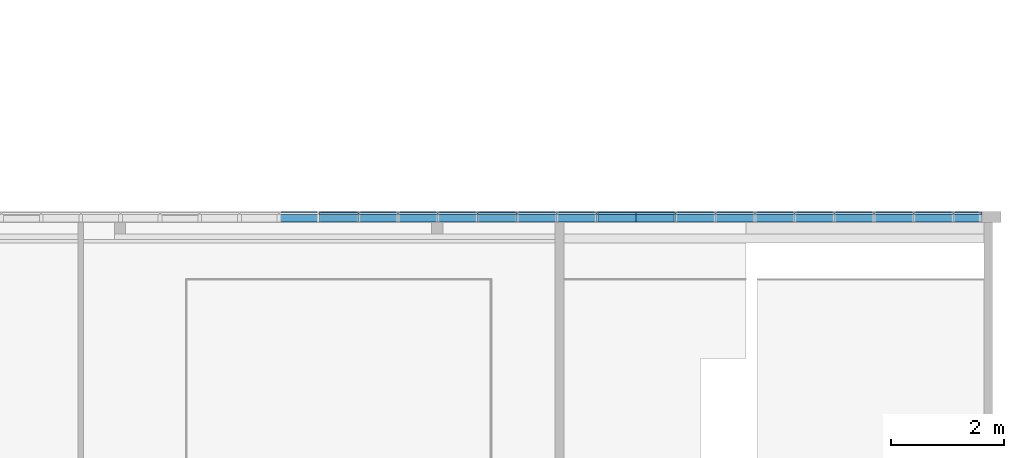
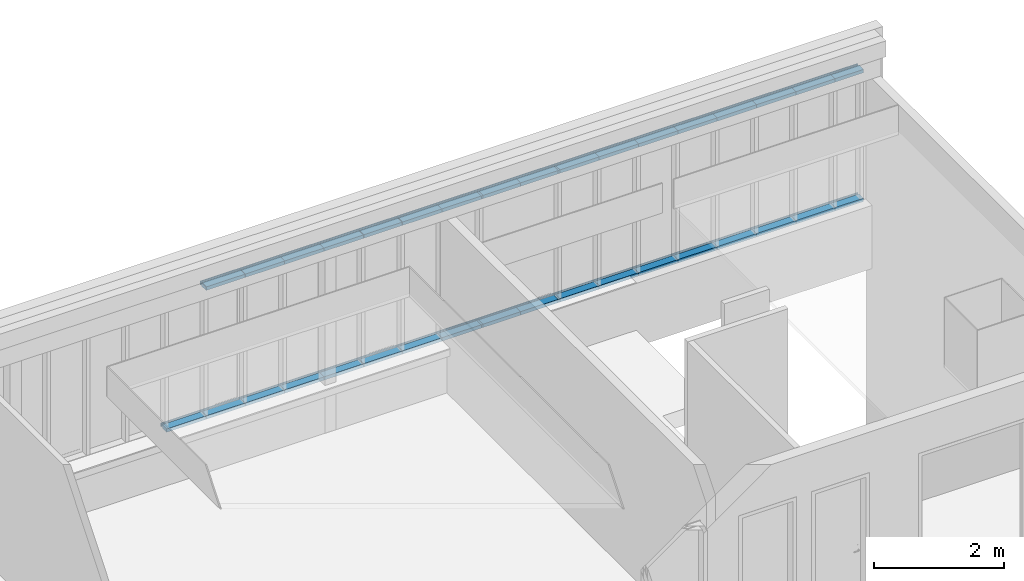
# One storey, part 18 of 87: 43 members, 1 element without a shape of its own.
"""IFC2X3 building model written with IfcOpenShell, lengths in centimetres."""

from ifc_helpers import new_model, entity, si_unit, converted_unit, derived_unit, direction, frame, origin, place, context, subcontext, project, spatial, polyline, outline, extrude, source, transform, mapped, material, type_object, type_shapes, element, aggregate, save


model = new_model("IFC2X3")

# Units and contexts
model_context = context("Model", 3, precision=0.001, world=origin(), true_north=direction((6.12303176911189e-17, 1.0)))
body_context = subcontext(model_context, "Body", "Model", "MODEL_VIEW")
ifc_project = project(units=[si_unit("LENGTHUNIT", "METRE", prefix="CENTI"), si_unit("AREAUNIT", "SQUARE_METRE"), si_unit("VOLUMEUNIT", "CUBIC_METRE"), converted_unit("PLANEANGLEUNIT", "DEGREE", entity("IfcRatioMeasure", 0.0174532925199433), si_unit("PLANEANGLEUNIT", "RADIAN"), dimensions=[0, 0, 0, 0, 0, 0, 0]), si_unit("MASSUNIT", "GRAM", prefix="KILO"), derived_unit("MASSDENSITYUNIT", [(si_unit("MASSUNIT", "GRAM", prefix="KILO"), 1), (si_unit("LENGTHUNIT", "METRE"), -3)]), si_unit("TIMEUNIT", "SECOND"), si_unit("FREQUENCYUNIT", "HERTZ"), si_unit("THERMODYNAMICTEMPERATUREUNIT", "DEGREE_CELSIUS"), derived_unit("THERMALTRANSMITTANCEUNIT", [(si_unit("MASSUNIT", "GRAM", prefix="KILO"), 1), (si_unit("THERMODYNAMICTEMPERATUREUNIT", "KELVIN"), -1), (si_unit("TIMEUNIT", "SECOND"), -3)]), derived_unit("VOLUMETRICFLOWRATEUNIT", [(si_unit("LENGTHUNIT", "METRE"), 3), (si_unit("TIMEUNIT", "SECOND"), -1)]), si_unit("ELECTRICCURRENTUNIT", "AMPERE"), si_unit("ELECTRICVOLTAGEUNIT", "VOLT"), si_unit("POWERUNIT", "WATT"), si_unit("FORCEUNIT", "NEWTON", prefix="KILO"), si_unit("ILLUMINANCEUNIT", "LUX"), si_unit("LUMINOUSFLUXUNIT", "LUMEN"), si_unit("LUMINOUSINTENSITYUNIT", "CANDELA"), derived_unit("USERDEFINED", [(si_unit("MASSUNIT", "GRAM", prefix="KILO"), -1), (si_unit("LENGTHUNIT", "METRE"), -2), (si_unit("TIMEUNIT", "SECOND"), 3), (si_unit("LUMINOUSFLUXUNIT", "LUMEN"), 1)]), derived_unit("LINEARVELOCITYUNIT", [(si_unit("LENGTHUNIT", "METRE"), 1), (si_unit("TIMEUNIT", "SECOND"), -1)]), si_unit("PRESSUREUNIT", "PASCAL"), derived_unit("USERDEFINED", [(si_unit("LENGTHUNIT", "METRE"), -2), (si_unit("MASSUNIT", "GRAM", prefix="KILO"), 1), (si_unit("TIMEUNIT", "SECOND"), -2)])], contexts=[model_context])

# Site, building, storey
site_placement = place(None, frame((-2781.94577612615, 7442.24238424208, 0.0)))
site = spatial("IfcSite", under=ifc_project, at=site_placement, Name="Default", CompositionType="ELEMENT")
building_placement = place(site_placement, origin())
building = spatial("IfcBuilding", under=site, at=building_placement, CompositionType="ELEMENT")
storey_placement = place(building_placement, frame((0.0, 0.0, 774.0)))
storey = spatial("IfcBuildingStorey", under=building, at=storey_placement, Name="TR - N02 - ARCH", CompositionType="ELEMENT", Elevation=774.0)

# Curtain wall, members
curtain_wall_type = type_object("IfcCurtainWallType", Name="Mur-rideau:07 - mur rideau trame 70cm", PredefinedType="NOTDEFINED")
curtain_wall_placement = place(storey_placement, frame((0.0, 0.0, -774.0)))
curtain_wall = element("IfcCurtainWall", 1, at=curtain_wall_placement, inside=storey, type_object=curtain_wall_type, Name="Mur-rideau:07 - mur rideau trame 70cm", ObjectType="Mur-rideau:07 - mur rideau trame 70cm")
ifc_material = material(Name="Aluminium")
member_type_1 = type_object("IfcMemberType", Name="150 x 25mm Détails", PredefinedType="MEMBER")
shared_shape_1 = source(origin(), body_context, "Body", "SweptSolid", [
    extrude(outline(polyline([(-13.3333333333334, -3.25000000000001), (0.166666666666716, -3.25000000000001), (0.166666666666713, -0.86874999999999), (3.66666666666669, -0.86874999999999), (3.66666666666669, -3.24999999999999), (5.66666666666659, -3.24999999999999), (5.66666666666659, 3.25), (3.66666666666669, 3.25), (3.66666666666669, 0.868749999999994), (0.166666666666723, 0.868749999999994), (0.166666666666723, 3.25000000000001), (-13.3333333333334, 3.24999999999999), (-13.3333333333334, -3.25000000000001)])), frame((-3.24999999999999, 1.96666666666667, -70.0), z_axis=(0.0, 0.0, 1.0), x_axis=(0.0, -1.0, 0.0)), (0.0, 0.0, 1.0), 69.9999999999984),
])
type_shapes(member_type_1, [shared_shape_1])
member_1_placement = place(storey_placement, frame((-1529.29988284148, -1073.7999999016, 332.5), z_axis=(1.0, 0.0, 0.0), x_axis=(0.0, 0.0, 1.0)))
member_1 = element("IfcMember", 2, at=member_1_placement, type_object=member_type_1, material=ifc_material, Name="Meneau rectangulaire:150 x 25mm Détails", ObjectType="Meneau rectangulaire:150 x 25mm Détails", context=body_context, shape_type="MappedRepresentation", body=[
    mapped(shared_shape_1, transform((0.0, 0.0, 0.0), scale=1.0)),
])
member_2_placement = place(storey_placement, frame((-1459.29988284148, -1073.7999999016, 332.5), z_axis=(1.0, 0.0, 0.0), x_axis=(0.0, 0.0, 1.0)))
member_2 = element("IfcMember", 3, at=member_2_placement, type_object=member_type_1, material=ifc_material, Name="Meneau rectangulaire:150 x 25mm Détails", ObjectType="Meneau rectangulaire:150 x 25mm Détails", context=body_context, shape_type="MappedRepresentation", body=[
    mapped(shared_shape_1, transform((0.0, 0.0, 0.0), scale=1.0)),
])
member_3_placement = place(storey_placement, frame((-1389.29988284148, -1073.7999999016, 332.5), z_axis=(1.0, 0.0, 0.0), x_axis=(0.0, 0.0, 1.0)))
member_3 = element("IfcMember", 4, at=member_3_placement, type_object=member_type_1, material=ifc_material, Name="Meneau rectangulaire:150 x 25mm Détails", ObjectType="Meneau rectangulaire:150 x 25mm Détails", context=body_context, shape_type="MappedRepresentation", body=[
    mapped(shared_shape_1, transform((0.0, 0.0, 0.0), scale=1.0)),
])
member_4_placement = place(storey_placement, frame((-1319.29988284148, -1073.7999999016, 332.5), z_axis=(1.0, 0.0, 0.0), x_axis=(0.0, 0.0, 1.0)))
member_4 = element("IfcMember", 5, at=member_4_placement, type_object=member_type_1, material=ifc_material, Name="Meneau rectangulaire:150 x 25mm Détails", ObjectType="Meneau rectangulaire:150 x 25mm Détails", context=body_context, shape_type="MappedRepresentation", body=[
    mapped(shared_shape_1, transform((0.0, 0.0, 0.0), scale=1.0)),
])
member_5_placement = place(storey_placement, frame((-1249.29988284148, -1073.7999999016, 332.5), z_axis=(1.0, 0.0, 0.0), x_axis=(0.0, 0.0, 1.0)))
member_5 = element("IfcMember", 6, at=member_5_placement, type_object=member_type_1, material=ifc_material, Name="Meneau rectangulaire:150 x 25mm Détails", ObjectType="Meneau rectangulaire:150 x 25mm Détails", context=body_context, shape_type="MappedRepresentation", body=[
    mapped(shared_shape_1, transform((0.0, 0.0, 0.0), scale=1.0)),
])
member_6_placement = place(storey_placement, frame((-1179.29988284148, -1073.7999999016, 332.5), z_axis=(1.0, 0.0, 0.0), x_axis=(0.0, 0.0, 1.0)))
member_6 = element("IfcMember", 7, at=member_6_placement, type_object=member_type_1, material=ifc_material, Name="Meneau rectangulaire:150 x 25mm Détails", ObjectType="Meneau rectangulaire:150 x 25mm Détails", context=body_context, shape_type="MappedRepresentation", body=[
    mapped(shared_shape_1, transform((0.0, 0.0, 0.0), scale=1.0)),
])
member_7_placement = place(storey_placement, frame((-1109.29988284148, -1073.7999999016, 332.5), z_axis=(1.0, 0.0, 0.0), x_axis=(0.0, 0.0, 1.0)))
member_7 = element("IfcMember", 8, at=member_7_placement, type_object=member_type_1, material=ifc_material, Name="Meneau rectangulaire:150 x 25mm Détails", ObjectType="Meneau rectangulaire:150 x 25mm Détails", context=body_context, shape_type="MappedRepresentation", body=[
    mapped(shared_shape_1, transform((0.0, 0.0, 0.0), scale=1.0)),
])
member_8_placement = place(storey_placement, frame((-1039.29988284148, -1073.7999999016, 332.5), z_axis=(1.0, 0.0, 0.0), x_axis=(0.0, 0.0, 1.0)))
member_8 = element("IfcMember", 9, at=member_8_placement, type_object=member_type_1, material=ifc_material, Name="Meneau rectangulaire:150 x 25mm Détails", ObjectType="Meneau rectangulaire:150 x 25mm Détails", context=body_context, shape_type="MappedRepresentation", body=[
    mapped(shared_shape_1, transform((0.0, 0.0, 0.0), scale=1.0)),
])
member_9_placement = place(storey_placement, frame((-969.29988284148, -1073.7999999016, 332.5), z_axis=(1.0, 0.0, 0.0), x_axis=(0.0, 0.0, 1.0)))
member_9 = element("IfcMember", 10, at=member_9_placement, type_object=member_type_1, material=ifc_material, Name="Meneau rectangulaire:150 x 25mm Détails", ObjectType="Meneau rectangulaire:150 x 25mm Détails", context=body_context, shape_type="MappedRepresentation", body=[
    mapped(shared_shape_1, transform((0.0, 0.0, 0.0), scale=1.0)),
])
member_10_placement = place(storey_placement, frame((-899.29988284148, -1073.7999999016, 332.5), z_axis=(1.0, 0.0, 0.0), x_axis=(0.0, 0.0, 1.0)))
member_10 = element("IfcMember", 11, at=member_10_placement, type_object=member_type_1, material=ifc_material, Name="Meneau rectangulaire:150 x 25mm Détails", ObjectType="Meneau rectangulaire:150 x 25mm Détails", context=body_context, shape_type="MappedRepresentation", body=[
    mapped(shared_shape_1, transform((0.0, 0.0, 0.0), scale=1.0)),
])
member_11_placement = place(storey_placement, frame((-829.29988284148, -1073.79999990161, 332.5), z_axis=(1.0, 0.0, 0.0), x_axis=(0.0, 0.0, 1.0)))
member_11 = element("IfcMember", 12, at=member_11_placement, type_object=member_type_1, material=ifc_material, Name="Meneau rectangulaire:150 x 25mm Détails", ObjectType="Meneau rectangulaire:150 x 25mm Détails", context=body_context, shape_type="MappedRepresentation", body=[
    mapped(shared_shape_1, transform((0.0, 0.0, 0.0), scale=1.0)),
])
member_12_placement = place(storey_placement, frame((-759.299882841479, -1073.79999990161, 332.5), z_axis=(1.0, 0.0, 0.0), x_axis=(0.0, 0.0, 1.0)))
member_12 = element("IfcMember", 13, at=member_12_placement, type_object=member_type_1, material=ifc_material, Name="Meneau rectangulaire:150 x 25mm Détails", ObjectType="Meneau rectangulaire:150 x 25mm Détails", context=body_context, shape_type="MappedRepresentation", body=[
    mapped(shared_shape_1, transform((0.0, 0.0, 0.0), scale=1.0)),
])
member_13_placement = place(storey_placement, frame((-689.299882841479, -1073.79999990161, 332.5), z_axis=(1.0, 0.0, 0.0), x_axis=(0.0, 0.0, 1.0)))
member_13 = element("IfcMember", 14, at=member_13_placement, type_object=member_type_1, material=ifc_material, Name="Meneau rectangulaire:150 x 25mm Détails", ObjectType="Meneau rectangulaire:150 x 25mm Détails", context=body_context, shape_type="MappedRepresentation", body=[
    mapped(shared_shape_1, transform((0.0, 0.0, 0.0), scale=1.0)),
])
member_14_placement = place(storey_placement, frame((-619.299882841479, -1073.79999990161, 332.5), z_axis=(1.0, 0.0, 0.0), x_axis=(0.0, 0.0, 1.0)))
member_14 = element("IfcMember", 15, at=member_14_placement, type_object=member_type_1, material=ifc_material, Name="Meneau rectangulaire:150 x 25mm Détails", ObjectType="Meneau rectangulaire:150 x 25mm Détails", context=body_context, shape_type="MappedRepresentation", body=[
    mapped(shared_shape_1, transform((0.0, 0.0, 0.0), scale=1.0)),
])
member_15_placement = place(storey_placement, frame((-549.299882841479, -1073.79999990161, 332.5), z_axis=(1.0, 0.0, 0.0), x_axis=(0.0, 0.0, 1.0)))
member_15 = element("IfcMember", 16, at=member_15_placement, type_object=member_type_1, material=ifc_material, Name="Meneau rectangulaire:150 x 25mm Détails", ObjectType="Meneau rectangulaire:150 x 25mm Détails", context=body_context, shape_type="MappedRepresentation", body=[
    mapped(shared_shape_1, transform((0.0, 0.0, 0.0), scale=1.0)),
])
member_16_placement = place(storey_placement, frame((-479.299882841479, -1073.79999990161, 332.5), z_axis=(1.0, 0.0, 0.0), x_axis=(0.0, 0.0, 1.0)))
member_16 = element("IfcMember", 17, at=member_16_placement, type_object=member_type_1, material=ifc_material, Name="Meneau rectangulaire:150 x 25mm Détails", ObjectType="Meneau rectangulaire:150 x 25mm Détails", context=body_context, shape_type="MappedRepresentation", body=[
    mapped(shared_shape_1, transform((0.0, 0.0, 0.0), scale=1.0)),
])
member_type_2 = type_object("IfcMemberType", Name="150 x 25mm Détails", PredefinedType="MEMBER")
shared_shape_2 = source(origin(), body_context, "Body", "SweptSolid", [
    extrude(outline(polyline([(-13.3333333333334, -3.24999999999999), (0.166666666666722, -3.24999999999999), (0.166666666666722, -0.868749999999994), (3.66666666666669, -0.868749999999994), (3.66666666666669, -3.25), (5.66666666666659, -3.25), (5.66666666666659, 3.24999999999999), (3.66666666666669, 3.24999999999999), (3.66666666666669, 0.86874999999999), (0.166666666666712, 0.86874999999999), (0.166666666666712, 3.25000000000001), (-13.3333333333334, 3.25000000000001), (-13.3333333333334, -3.24999999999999)])), frame((-3.24999999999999, 1.96666666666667, -70.0), z_axis=(0.0, 0.0, 1.0), x_axis=(0.0, -1.0, 0.0)), (0.0, 0.0, 1.0), 69.9999999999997),
])
type_shapes(member_type_2, [shared_shape_2])
member_17_placement = place(storey_placement, frame((-1109.29988284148, -1073.7999999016, 83.5), z_axis=(-1.0, 0.0, 0.0), x_axis=(0.0, 0.0, -1.0)))
member_17 = element("IfcMember", 18, at=member_17_placement, type_object=member_type_2, material=ifc_material, Name="Meneau rectangulaire:150 x 25mm Détails", ObjectType="Meneau rectangulaire:150 x 25mm Détails", context=body_context, shape_type="MappedRepresentation", body=[
    mapped(shared_shape_2, transform((0.0, 0.0, 0.0), scale=1.0)),
])
member_type_3 = type_object("IfcMemberType", Name="150 x 25mm Détails", PredefinedType="MEMBER")
shared_shape_3 = source(origin(), body_context, "Body", "SweptSolid", [
    extrude(outline(polyline([(-13.3333333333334, -3.24999999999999), (0.166666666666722, -3.24999999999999), (0.166666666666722, -0.868749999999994), (3.66666666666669, -0.868749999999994), (3.66666666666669, -3.25), (5.66666666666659, -3.25), (5.66666666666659, 3.24999999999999), (3.66666666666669, 3.24999999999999), (3.66666666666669, 0.86874999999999), (0.166666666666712, 0.86874999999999), (0.166666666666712, 3.25000000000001), (-13.3333333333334, 3.25000000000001), (-13.3333333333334, -3.24999999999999)])), frame((-3.24999999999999, 1.96666666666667, -70.0), z_axis=(0.0, 0.0, 1.0), x_axis=(0.0, -1.0, 0.0)), (0.0, 0.0, 1.0), 70.0000000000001),
])
type_shapes(member_type_3, [shared_shape_3])
member_18_placement = place(storey_placement, frame((-1039.29988284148, -1073.7999999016, 83.5), z_axis=(-1.0, 0.0, 0.0), x_axis=(0.0, 0.0, -1.0)))
member_18 = element("IfcMember", 19, at=member_18_placement, type_object=member_type_3, material=ifc_material, Name="Meneau rectangulaire:150 x 25mm Détails", ObjectType="Meneau rectangulaire:150 x 25mm Détails", context=body_context, shape_type="MappedRepresentation", body=[
    mapped(shared_shape_3, transform((0.0, 0.0, 0.0), scale=1.0)),
])
member_type_4 = type_object("IfcMemberType", Name="150 x 25mm Détails", PredefinedType="MEMBER")
shared_shape_4 = source(origin(), body_context, "Body", "SweptSolid", [
    extrude(outline(polyline([(-13.3333333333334, -3.24999999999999), (0.166666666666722, -3.24999999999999), (0.166666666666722, -0.868749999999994), (3.66666666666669, -0.868749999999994), (3.66666666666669, -3.25), (5.66666666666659, -3.25), (5.66666666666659, 3.24999999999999), (3.66666666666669, 3.24999999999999), (3.66666666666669, 0.86874999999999), (0.166666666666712, 0.86874999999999), (0.166666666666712, 3.25000000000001), (-13.3333333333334, 3.25000000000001), (-13.3333333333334, -3.24999999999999)])), frame((-3.24999999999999, 1.96666666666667, -70.0), z_axis=(0.0, 0.0, 1.0), x_axis=(0.0, -1.0, 0.0)), (0.0, 0.0, 1.0), 69.9999999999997),
])
type_shapes(member_type_4, [shared_shape_4])
member_19_placement = place(storey_placement, frame((-1669.29988284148, -1073.7999999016, 83.5), z_axis=(-1.0, 0.0, 0.0), x_axis=(0.0, 0.0, -1.0)))
member_19 = element("IfcMember", 20, at=member_19_placement, type_object=member_type_4, material=ifc_material, Name="Meneau rectangulaire:150 x 25mm Détails", ObjectType="Meneau rectangulaire:150 x 25mm Détails", context=body_context, shape_type="MappedRepresentation", body=[
    mapped(shared_shape_4, transform((0.0, 0.0, 0.0), scale=1.0)),
])
member_20_placement = place(storey_placement, frame((-1599.29988284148, -1073.7999999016, 83.5), z_axis=(-1.0, 0.0, 0.0), x_axis=(0.0, 0.0, -1.0)))
member_20 = element("IfcMember", 21, at=member_20_placement, type_object=member_type_4, material=ifc_material, Name="Meneau rectangulaire:150 x 25mm Détails", ObjectType="Meneau rectangulaire:150 x 25mm Détails", context=body_context, shape_type="MappedRepresentation", body=[
    mapped(shared_shape_4, transform((0.0, 0.0, 0.0), scale=1.0)),
])
member_21_placement = place(storey_placement, frame((-1529.29988284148, -1073.7999999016, 83.5), z_axis=(-1.0, 0.0, 0.0), x_axis=(0.0, 0.0, -1.0)))
member_21 = element("IfcMember", 22, at=member_21_placement, type_object=member_type_4, material=ifc_material, Name="Meneau rectangulaire:150 x 25mm Détails", ObjectType="Meneau rectangulaire:150 x 25mm Détails", context=body_context, shape_type="MappedRepresentation", body=[
    mapped(shared_shape_4, transform((0.0, 0.0, 0.0), scale=1.0)),
])
member_22_placement = place(storey_placement, frame((-1459.29988284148, -1073.7999999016, 83.5), z_axis=(-1.0, 0.0, 0.0), x_axis=(0.0, 0.0, -1.0)))
member_22 = element("IfcMember", 23, at=member_22_placement, type_object=member_type_4, material=ifc_material, Name="Meneau rectangulaire:150 x 25mm Détails", ObjectType="Meneau rectangulaire:150 x 25mm Détails", context=body_context, shape_type="MappedRepresentation", body=[
    mapped(shared_shape_4, transform((0.0, 0.0, 0.0), scale=1.0)),
])
member_23_placement = place(storey_placement, frame((-1389.29988284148, -1073.7999999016, 83.5), z_axis=(-1.0, 0.0, 0.0), x_axis=(0.0, 0.0, -1.0)))
member_23 = element("IfcMember", 24, at=member_23_placement, type_object=member_type_4, material=ifc_material, Name="Meneau rectangulaire:150 x 25mm Détails", ObjectType="Meneau rectangulaire:150 x 25mm Détails", context=body_context, shape_type="MappedRepresentation", body=[
    mapped(shared_shape_4, transform((0.0, 0.0, 0.0), scale=1.0)),
])
member_24_placement = place(storey_placement, frame((-1319.29988284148, -1073.7999999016, 83.5), z_axis=(-1.0, 0.0, 0.0), x_axis=(0.0, 0.0, -1.0)))
member_24 = element("IfcMember", 25, at=member_24_placement, type_object=member_type_4, material=ifc_material, Name="Meneau rectangulaire:150 x 25mm Détails", ObjectType="Meneau rectangulaire:150 x 25mm Détails", context=body_context, shape_type="MappedRepresentation", body=[
    mapped(shared_shape_4, transform((0.0, 0.0, 0.0), scale=1.0)),
])
member_25_placement = place(storey_placement, frame((-1249.29988284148, -1073.7999999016, 83.5), z_axis=(-1.0, 0.0, 0.0), x_axis=(0.0, 0.0, -1.0)))
member_25 = element("IfcMember", 26, at=member_25_placement, type_object=member_type_4, material=ifc_material, Name="Meneau rectangulaire:150 x 25mm Détails", ObjectType="Meneau rectangulaire:150 x 25mm Détails", context=body_context, shape_type="MappedRepresentation", body=[
    mapped(shared_shape_4, transform((0.0, 0.0, 0.0), scale=1.0)),
])
member_26_placement = place(storey_placement, frame((-1179.29988284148, -1073.7999999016, 83.5), z_axis=(-1.0, 0.0, 0.0), x_axis=(0.0, 0.0, -1.0)))
member_26 = element("IfcMember", 27, at=member_26_placement, type_object=member_type_4, material=ifc_material, Name="Meneau rectangulaire:150 x 25mm Détails", ObjectType="Meneau rectangulaire:150 x 25mm Détails", context=body_context, shape_type="MappedRepresentation", body=[
    mapped(shared_shape_4, transform((0.0, 0.0, 0.0), scale=1.0)),
])
member_27_placement = place(storey_placement, frame((-969.29988284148, -1073.7999999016, 83.5), z_axis=(-1.0, 0.0, 0.0), x_axis=(0.0, 0.0, -1.0)))
member_27 = element("IfcMember", 28, at=member_27_placement, type_object=member_type_4, material=ifc_material, Name="Meneau rectangulaire:150 x 25mm Détails", ObjectType="Meneau rectangulaire:150 x 25mm Détails", context=body_context, shape_type="MappedRepresentation", body=[
    mapped(shared_shape_4, transform((0.0, 0.0, 0.0), scale=1.0)),
])
member_28_placement = place(storey_placement, frame((-899.29988284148, -1073.7999999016, 83.5), z_axis=(-1.0, 0.0, 0.0), x_axis=(0.0, 0.0, -1.0)))
member_28 = element("IfcMember", 29, at=member_28_placement, type_object=member_type_4, material=ifc_material, Name="Meneau rectangulaire:150 x 25mm Détails", ObjectType="Meneau rectangulaire:150 x 25mm Détails", context=body_context, shape_type="MappedRepresentation", body=[
    mapped(shared_shape_4, transform((0.0, 0.0, 0.0), scale=1.0)),
])
member_29_placement = place(storey_placement, frame((-829.29988284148, -1073.79999990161, 83.5), z_axis=(-1.0, 0.0, 0.0), x_axis=(0.0, 0.0, -1.0)))
member_29 = element("IfcMember", 30, at=member_29_placement, type_object=member_type_4, material=ifc_material, Name="Meneau rectangulaire:150 x 25mm Détails", ObjectType="Meneau rectangulaire:150 x 25mm Détails", context=body_context, shape_type="MappedRepresentation", body=[
    mapped(shared_shape_4, transform((0.0, 0.0, 0.0), scale=1.0)),
])
member_30_placement = place(storey_placement, frame((-759.299882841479, -1073.79999990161, 83.5), z_axis=(-1.0, 0.0, 0.0), x_axis=(0.0, 0.0, -1.0)))
member_30 = element("IfcMember", 31, at=member_30_placement, type_object=member_type_4, material=ifc_material, Name="Meneau rectangulaire:150 x 25mm Détails", ObjectType="Meneau rectangulaire:150 x 25mm Détails", context=body_context, shape_type="MappedRepresentation", body=[
    mapped(shared_shape_4, transform((0.0, 0.0, 0.0), scale=1.0)),
])
member_31_placement = place(storey_placement, frame((-689.299882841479, -1073.79999990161, 83.5), z_axis=(-1.0, 0.0, 0.0), x_axis=(0.0, 0.0, -1.0)))
member_31 = element("IfcMember", 32, at=member_31_placement, type_object=member_type_4, material=ifc_material, Name="Meneau rectangulaire:150 x 25mm Détails", ObjectType="Meneau rectangulaire:150 x 25mm Détails", context=body_context, shape_type="MappedRepresentation", body=[
    mapped(shared_shape_4, transform((0.0, 0.0, 0.0), scale=1.0)),
])
member_32_placement = place(storey_placement, frame((-619.299882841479, -1073.79999990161, 83.5), z_axis=(-1.0, 0.0, 0.0), x_axis=(0.0, 0.0, -1.0)))
member_32 = element("IfcMember", 33, at=member_32_placement, type_object=member_type_4, material=ifc_material, Name="Meneau rectangulaire:150 x 25mm Détails", ObjectType="Meneau rectangulaire:150 x 25mm Détails", context=body_context, shape_type="MappedRepresentation", body=[
    mapped(shared_shape_4, transform((0.0, 0.0, 0.0), scale=1.0)),
])
member_33_placement = place(storey_placement, frame((-549.299882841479, -1073.79999990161, 83.5), z_axis=(-1.0, 0.0, 0.0), x_axis=(0.0, 0.0, -1.0)))
member_33 = element("IfcMember", 34, at=member_33_placement, type_object=member_type_4, material=ifc_material, Name="Meneau rectangulaire:150 x 25mm Détails", ObjectType="Meneau rectangulaire:150 x 25mm Détails", context=body_context, shape_type="MappedRepresentation", body=[
    mapped(shared_shape_4, transform((0.0, 0.0, 0.0), scale=1.0)),
])
member_type_5 = type_object("IfcMemberType", Name="150 x 25mm Détails", PredefinedType="MEMBER")
shared_shape_5 = source(origin(), body_context, "Body", "SweptSolid", [
    extrude(outline(polyline([(-13.3333333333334, -3.24999999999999), (0.166666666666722, -3.24999999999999), (0.166666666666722, -0.868749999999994), (3.66666666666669, -0.868749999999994), (3.66666666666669, -3.25), (5.66666666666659, -3.25), (5.66666666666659, 3.24999999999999), (3.66666666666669, 3.24999999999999), (3.66666666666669, 0.86874999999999), (0.166666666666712, 0.86874999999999), (0.166666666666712, 3.25000000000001), (-13.3333333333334, 3.25000000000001), (-13.3333333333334, -3.24999999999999)])), frame((-3.24999999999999, 1.96666666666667, -50.3749999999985), z_axis=(0.0, 0.0, 1.0), x_axis=(0.0, -1.0, 0.0)), (0.0, 0.0, 1.0), 50.3749999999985),
])
type_shapes(member_type_5, [shared_shape_5])
member_34_placement = place(storey_placement, frame((-479.299882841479, -1073.79999990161, 83.5), z_axis=(-1.0, 0.0, 0.0), x_axis=(0.0, 0.0, -1.0)))
member_34 = element("IfcMember", 35, at=member_34_placement, type_object=member_type_5, material=ifc_material, Name="Meneau rectangulaire:150 x 25mm Détails", ObjectType="Meneau rectangulaire:150 x 25mm Détails", context=body_context, shape_type="MappedRepresentation", body=[
    mapped(shared_shape_5, transform((0.0, 0.0, 0.0), scale=1.0)),
])
member_type_6 = type_object("IfcMemberType", Name="150 x 25mm Détails", PredefinedType="MEMBER")
shared_shape_6 = source(origin(), body_context, "Body", "SweptSolid", [
    extrude(outline(polyline([(-13.3333333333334, -3.25000000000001), (0.166666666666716, -3.25000000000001), (0.166666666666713, -0.86874999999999), (3.66666666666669, -0.86874999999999), (3.66666666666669, -3.24999999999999), (5.66666666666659, -3.24999999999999), (5.66666666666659, 3.25), (3.66666666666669, 3.25), (3.66666666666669, 0.868749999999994), (0.166666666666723, 0.868749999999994), (0.166666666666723, 3.25000000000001), (-13.3333333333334, 3.24999999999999), (-13.3333333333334, -3.25000000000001)])), frame((-3.24999999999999, 1.96666666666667, -50.3749999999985), z_axis=(0.0, 0.0, 1.0), x_axis=(0.0, -1.0, 0.0)), (0.0, 0.0, 1.0), 50.3749999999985),
])
type_shapes(member_type_6, [shared_shape_6])
member_35_placement = place(storey_placement, frame((-428.924882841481, -1073.79999990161, 332.5), z_axis=(1.0, 0.0, 0.0), x_axis=(0.0, 0.0, 1.0)))
member_35 = element("IfcMember", 36, at=member_35_placement, type_object=member_type_6, material=ifc_material, Name="Meneau rectangulaire:150 x 25mm Détails", ObjectType="Meneau rectangulaire:150 x 25mm Détails", context=body_context, shape_type="MappedRepresentation", body=[
    mapped(shared_shape_6, transform((0.0, 0.0, 0.0), scale=1.0)),
])
member_type_7 = type_object("IfcMemberType", Name="150 x 25mm Détails", PredefinedType="MEMBER")
shared_shape_7 = source(origin(), body_context, "Body", "SweptSolid", [
    extrude(outline(polyline([(-13.3333333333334, -3.25000000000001), (0.166666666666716, -3.25000000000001), (0.166666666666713, -0.86874999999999), (3.66666666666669, -0.86874999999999), (3.66666666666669, -3.24999999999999), (5.66666666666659, -3.24999999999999), (5.66666666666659, 3.25), (3.66666666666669, 3.25), (3.66666666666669, 0.868749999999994), (0.166666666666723, 0.868749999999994), (0.166666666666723, 3.25000000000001), (-13.3333333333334, 3.24999999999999), (-13.3333333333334, -3.25000000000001)])), frame((-3.24999999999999, 1.96666666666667, -68.0), z_axis=(0.0, 0.0, 1.0), x_axis=(0.0, -1.0, 0.0)), (0.0, 0.0, 1.0), 67.9999999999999),
])
type_shapes(member_type_7, [shared_shape_7])
member_36_placement = place(storey_placement, frame((-1250.26863284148, -1073.7999999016, 90.0), z_axis=(1.0, 0.0, 0.0), x_axis=(0.0, 0.0, 1.0)))
member_36 = element("IfcMember", 37, at=member_36_placement, type_object=member_type_7, material=ifc_material, Name="Meneau rectangulaire:150 x 25mm Détails", ObjectType="Meneau rectangulaire:150 x 25mm Détails", context=body_context, shape_type="MappedRepresentation", body=[
    mapped(shared_shape_7, transform((0.0, 0.0, 0.0), scale=1.0)),
])
member_37_placement = place(storey_placement, frame((-1530.26863284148, -1073.7999999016, 90.0), z_axis=(1.0, 0.0, 0.0), x_axis=(0.0, 0.0, 1.0)))
member_37 = element("IfcMember", 38, at=member_37_placement, type_object=member_type_7, material=ifc_material, Name="Meneau rectangulaire:150 x 25mm Détails", ObjectType="Meneau rectangulaire:150 x 25mm Détails", context=body_context, shape_type="MappedRepresentation", body=[
    mapped(shared_shape_7, transform((0.0, 0.0, 0.0), scale=1.0)),
])
member_type_8 = type_object("IfcMemberType", Name="150 x 25mm Détails", PredefinedType="MEMBER")
shared_shape_8 = source(origin(), body_context, "Body", "SweptSolid", [
    extrude(outline(polyline([(-13.3333333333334, -3.24999999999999), (0.166666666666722, -3.24999999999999), (0.166666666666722, -0.868749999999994), (3.66666666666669, -0.868749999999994), (3.66666666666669, -3.25), (5.66666666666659, -3.25), (5.66666666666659, 3.24999999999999), (3.66666666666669, 3.24999999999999), (3.66666666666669, 0.86874999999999), (0.166666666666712, 0.86874999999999), (0.166666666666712, 3.25000000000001), (-13.3333333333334, 3.25000000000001), (-13.3333333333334, -3.24999999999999)])), frame((-3.24999999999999, 1.96666666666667, -68.0), z_axis=(0.0, 0.0, 1.0), x_axis=(0.0, -1.0, 0.0)), (0.0, 0.0, 1.0), 67.9999999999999),
])
type_shapes(member_type_8, [shared_shape_8])
member_38_placement = place(storey_placement, frame((-1318.26863284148, -1073.7999999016, 326.0), z_axis=(-1.0, 0.0, 0.0), x_axis=(0.0, 0.0, -1.0)))
member_38 = element("IfcMember", 39, at=member_38_placement, type_object=member_type_8, material=ifc_material, Name="Meneau rectangulaire:150 x 25mm Détails", ObjectType="Meneau rectangulaire:150 x 25mm Détails", context=body_context, shape_type="MappedRepresentation", body=[
    mapped(shared_shape_8, transform((0.0, 0.0, 0.0), scale=1.0)),
])
member_39_placement = place(storey_placement, frame((-1598.26863284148, -1073.7999999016, 326.0), z_axis=(-1.0, 0.0, 0.0), x_axis=(0.0, 0.0, -1.0)))
member_39 = element("IfcMember", 40, at=member_39_placement, type_object=member_type_8, material=ifc_material, Name="Meneau rectangulaire:150 x 25mm Détails", ObjectType="Meneau rectangulaire:150 x 25mm Détails", context=body_context, shape_type="MappedRepresentation", body=[
    mapped(shared_shape_8, transform((0.0, 0.0, 0.0), scale=1.0)),
])
member_type_9 = type_object("IfcMemberType", Name="150 x 25mm Détails", PredefinedType="MEMBER")
shared_shape_9 = source(origin(), body_context, "Body", "SweptSolid", [
    extrude(outline(polyline([(-13.3333333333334, -3.25000000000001), (0.166666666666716, -3.25000000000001), (0.166666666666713, -0.86874999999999), (3.66666666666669, -0.86874999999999), (3.66666666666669, -3.24999999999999), (5.66666666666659, -3.24999999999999), (5.66666666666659, 3.25), (3.66666666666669, 3.25), (3.66666666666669, 0.868749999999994), (0.166666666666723, 0.868749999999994), (0.166666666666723, 3.25000000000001), (-13.3333333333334, 3.24999999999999), (-13.3333333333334, -3.25000000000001)])), frame((-3.24999999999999, 1.96666666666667, -66.7500000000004), z_axis=(0.0, 0.0, 1.0), x_axis=(0.0, -1.0, 0.0)), (0.0, 0.0, 1.0), 66.7500000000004),
])
type_shapes(member_type_9, [shared_shape_9])
member_40_placement = place(storey_placement, frame((-972.54988284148, -1073.7999999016, 90.0), z_axis=(1.0, 0.0, 0.0), x_axis=(0.0, 0.0, 1.0)))
member_40 = element("IfcMember", 41, at=member_40_placement, type_object=member_type_9, material=ifc_material, Name="Meneau rectangulaire:150 x 25mm Détails", ObjectType="Meneau rectangulaire:150 x 25mm Détails", context=body_context, shape_type="MappedRepresentation", body=[
    mapped(shared_shape_9, transform((0.0, 0.0, 0.0), scale=1.0)),
])
member_type_10 = type_object("IfcMemberType", Name="150 x 25mm Détails", PredefinedType="MEMBER")
shared_shape_10 = source(origin(), body_context, "Body", "SweptSolid", [
    extrude(outline(polyline([(-13.3333333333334, -3.24999999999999), (0.166666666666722, -3.24999999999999), (0.166666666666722, -0.868749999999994), (3.66666666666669, -0.868749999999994), (3.66666666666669, -3.25), (5.66666666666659, -3.25), (5.66666666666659, 3.24999999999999), (3.66666666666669, 3.24999999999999), (3.66666666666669, 0.86874999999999), (0.166666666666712, 0.86874999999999), (0.166666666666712, 3.25000000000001), (-13.3333333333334, 3.25000000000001), (-13.3333333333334, -3.24999999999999)])), frame((-3.24999999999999, 1.96666666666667, -66.7499999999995), z_axis=(0.0, 0.0, 1.0), x_axis=(0.0, -1.0, 0.0)), (0.0, 0.0, 1.0), 66.7499999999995),
])
type_shapes(member_type_10, [shared_shape_10])
member_41_placement = place(storey_placement, frame((-1106.04988284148, -1073.7999999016, 326.0), z_axis=(-1.0, 0.0, 0.0), x_axis=(0.0, 0.0, -1.0)))
member_41 = element("IfcMember", 42, at=member_41_placement, type_object=member_type_10, material=ifc_material, Name="Meneau rectangulaire:150 x 25mm Détails", ObjectType="Meneau rectangulaire:150 x 25mm Détails", context=body_context, shape_type="MappedRepresentation", body=[
    mapped(shared_shape_10, transform((0.0, 0.0, 0.0), scale=1.0)),
])
member_type_11 = type_object("IfcMemberType", Name="150 x 25mm Détails", PredefinedType="MEMBER")
shared_shape_11 = source(origin(), body_context, "Body", "SweptSolid", [
    extrude(outline(polyline([(-13.3333333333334, -3.24999999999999), (0.166666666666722, -3.24999999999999), (0.166666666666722, -0.868749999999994), (3.66666666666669, -0.868749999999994), (3.66666666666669, -3.25), (5.66666666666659, -3.25), (5.66666666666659, 3.24999999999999), (3.66666666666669, 3.24999999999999), (3.66666666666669, 0.86874999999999), (0.166666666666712, 0.86874999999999), (0.166666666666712, 3.25000000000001), (-13.3333333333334, 3.25000000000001), (-13.3333333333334, -3.24999999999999)])), frame((-3.24999999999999, 1.96666666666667, -66.7500000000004), z_axis=(0.0, 0.0, 1.0), x_axis=(0.0, -1.0, 0.0)), (0.0, 0.0, 1.0), 66.7500000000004),
])
type_shapes(member_type_11, [shared_shape_11])
member_42_placement = place(storey_placement, frame((-1039.29988284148, -1073.7999999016, 326.0), z_axis=(-1.0, 0.0, 0.0), x_axis=(0.0, 0.0, -1.0)))
member_42 = element("IfcMember", 43, at=member_42_placement, type_object=member_type_11, material=ifc_material, Name="Meneau rectangulaire:150 x 25mm Détails", ObjectType="Meneau rectangulaire:150 x 25mm Détails", context=body_context, shape_type="MappedRepresentation", body=[
    mapped(shared_shape_11, transform((0.0, 0.0, 0.0), scale=1.0)),
])
member_type_12 = type_object("IfcMemberType", Name="150 x 25mm Détails", PredefinedType="MEMBER")
shared_shape_12 = source(origin(), body_context, "Body", "SweptSolid", [
    extrude(outline(polyline([(-13.3333333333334, -3.25000000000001), (0.166666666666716, -3.25000000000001), (0.166666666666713, -0.86874999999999), (3.66666666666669, -0.86874999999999), (3.66666666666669, -3.24999999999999), (5.66666666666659, -3.24999999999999), (5.66666666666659, 3.25), (3.66666666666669, 3.25), (3.66666666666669, 0.868749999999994), (0.166666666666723, 0.868749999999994), (0.166666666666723, 3.25000000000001), (-13.3333333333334, 3.24999999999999), (-13.3333333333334, -3.25000000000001)])), frame((-3.24999999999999, 1.96666666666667, -66.7499999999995), z_axis=(0.0, 0.0, 1.0), x_axis=(0.0, -1.0, 0.0)), (0.0, 0.0, 1.0), 66.7499999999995),
])
type_shapes(member_type_12, [shared_shape_12])
member_43_placement = place(storey_placement, frame((-1039.29988284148, -1073.7999999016, 90.0), z_axis=(1.0, 0.0, 0.0), x_axis=(0.0, 0.0, 1.0)))
member_43 = element("IfcMember", 44, at=member_43_placement, type_object=member_type_12, material=ifc_material, Name="Meneau rectangulaire:150 x 25mm Détails", ObjectType="Meneau rectangulaire:150 x 25mm Détails", context=body_context, shape_type="MappedRepresentation", body=[
    mapped(shared_shape_12, transform((0.0, 0.0, 0.0), scale=1.0)),
])
aggregate(curtain_wall, [member_1, member_2, member_3, member_4, member_5, member_6, member_7, member_8, member_9, member_10, member_11, member_12, member_13, member_14, member_15, member_16, member_19, member_20, member_21, member_22, member_23, member_24, member_25, member_26, member_17, member_18, member_27, member_28, member_29, member_30, member_31, member_32, member_33, member_34, member_35, member_38, member_36, member_39, member_37, member_41, member_40, member_42, member_43])

save(model, "model.ifc")
